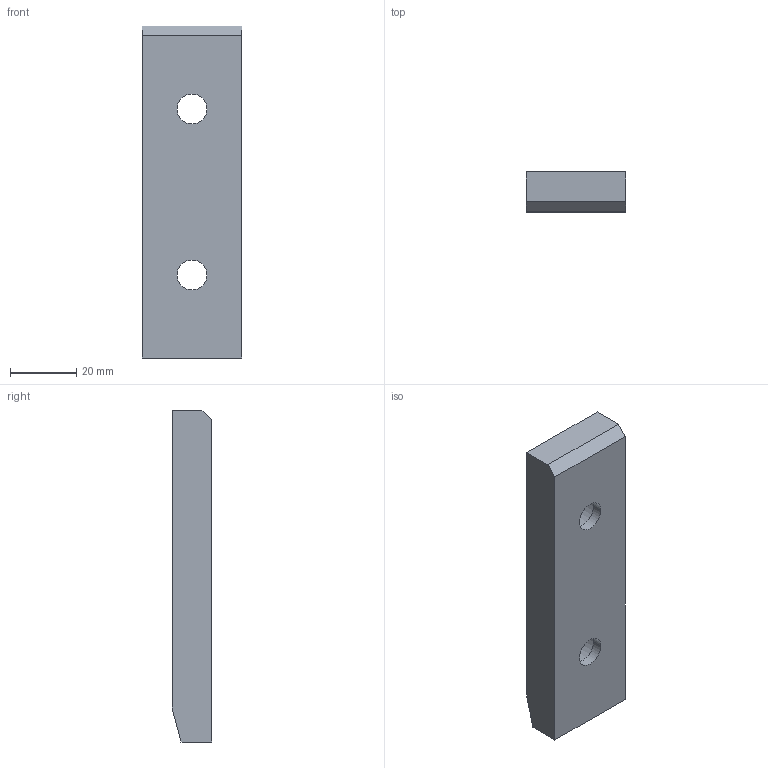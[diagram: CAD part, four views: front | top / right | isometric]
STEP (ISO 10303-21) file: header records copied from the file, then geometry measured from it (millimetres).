
FILE_DESCRIPTION (( 'STEP AP214' ), '1' );
FILE_NAME ('SW222-01-30x100.STEP', '2020-10-14T12:28:42', ( 'August' ), ( '' ), 'SwSTEP 2.0', 'SolidWorks 2018', '' );
FILE_SCHEMA (( 'AUTOMOTIVE_DESIGN' ));
Length unit declared in the file: millimetre
Products named in the file (1): SW222-01-30x100
Bounding box: 30 x 12 x 100 mm (x, y, z)
Volume: 28469.8 mm3; surface area: 13115.9 mm2
Topology: 1 solids, 1 shells, 143 faces, 293 edges, 194 vertices
Faces by surface type: cylinder 89, plane 50, cone 4
Entity records: 4152 total; most frequent: DIRECTION 763, CARTESIAN_POINT 631, ORIENTED_EDGE 586, AXIS2_PLACEMENT_3D 326, EDGE_CURVE 293, VERTEX_POINT 194, EDGE_LOOP 189, CIRCLE 182
